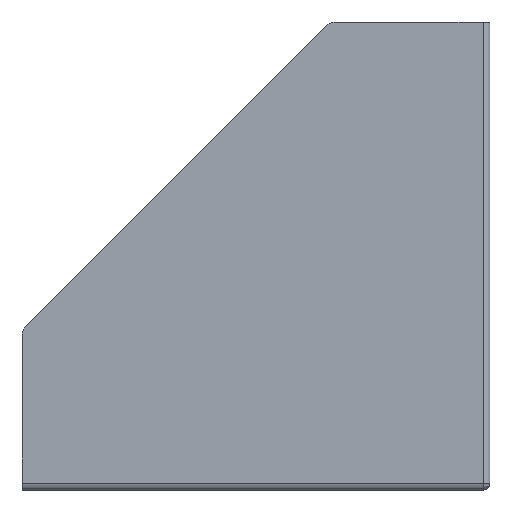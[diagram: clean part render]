
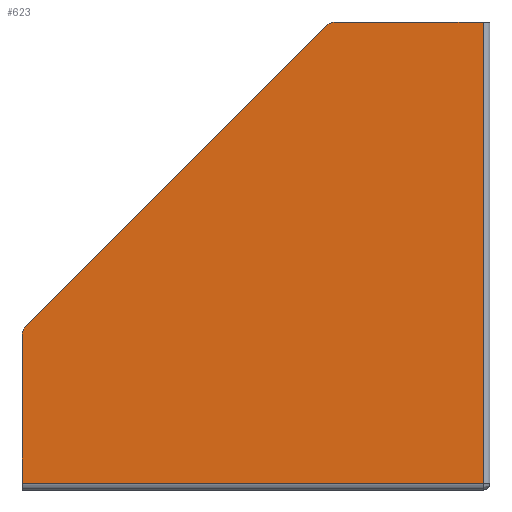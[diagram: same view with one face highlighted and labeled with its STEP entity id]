
A CAD part, left-side view. The second image highlights one B-rep face of the part: STEP entity #623.
In plain terms, the highlighted planar face has unit normal (-1, 0, 0).
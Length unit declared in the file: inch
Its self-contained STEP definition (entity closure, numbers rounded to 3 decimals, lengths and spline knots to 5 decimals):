
#14 = ORIENTED_EDGE ( 'NONE', *, *, #315, .F. ) ;
#28 = ORIENTED_EDGE ( 'NONE', *, *, #69, .F. ) ;
#34 = DIRECTION ( 'NONE',  ( 0., 0., -1. ) ) ;
#65 = VECTOR ( 'NONE', #507, 39.37008 ) ;
#69 = EDGE_CURVE ( 'NONE', #662, #557, #268, .T. ) ;
#77 = ORIENTED_EDGE ( 'NONE', *, *, #862, .F. ) ;
#80 = VERTEX_POINT ( 'NONE', #555 ) ;
#114 = CARTESIAN_POINT ( 'NONE',  ( 0., 6.33839, -4.13589 ) ) ;
#137 = VECTOR ( 'NONE', #190, 39.37008 ) ;
#139 = DIRECTION ( 'NONE',  ( 1., 0., 0. ) ) ;
#162 = VECTOR ( 'NONE', #393, 39.37008 ) ;
#171 = FACE_OUTER_BOUND ( 'NONE', #195, .T. ) ;
#175 = CARTESIAN_POINT ( 'NONE',  ( 0., 6.33839, -4.13589 ) ) ;
#177 = EDGE_CURVE ( 'NONE', #422, #510, #516, .T. ) ;
#190 = DIRECTION ( 'NONE',  ( 0., 1., 0. ) ) ;
#195 = EDGE_LOOP ( 'NONE', ( #77, #681, #14, #809, #367, #28, #640 ) ) ;
#205 = AXIS2_PLACEMENT_3D ( 'NONE', #554, #139, #618 ) ;
#250 = VERTEX_POINT ( 'NONE', #703 ) ;
#267 = VECTOR ( 'NONE', #34, 39.37008 ) ;
#268 = CIRCLE ( 'NONE', #205, 0.125 ) ;
#296 = CARTESIAN_POINT ( 'NONE',  ( 0., 2.11947, -0.09375 ) ) ;
#315 = EDGE_CURVE ( 'NONE', #510, #250, #598, .T. ) ;
#325 = CARTESIAN_POINT ( 'NONE',  ( 0., 6.375, -6.34375 ) ) ;
#329 = VERTEX_POINT ( 'NONE', #694 ) ;
#355 = DIRECTION ( 'NONE',  ( 0., 0., 1. ) ) ;
#365 = CARTESIAN_POINT ( 'NONE',  ( 0., 6.375, -4.22428 ) ) ;
#367 = ORIENTED_EDGE ( 'NONE', *, *, #592, .F. ) ;
#368 = CARTESIAN_POINT ( 'NONE',  ( 0., 2.20786, -0.00536 ) ) ;
#371 = VECTOR ( 'NONE', #731, 39.37008 ) ;
#390 = DIRECTION ( 'NONE',  ( 0., 0., -1. ) ) ;
#393 = DIRECTION ( 'NONE',  ( 0., 0., 1. ) ) ;
#422 = VERTEX_POINT ( 'NONE', #368 ) ;
#478 = LINE ( 'NONE', #807, #162 ) ;
#491 = EDGE_CURVE ( 'NONE', #250, #329, #802, .T. ) ;
#507 = DIRECTION ( 'NONE',  ( 0., -1., 0. ) ) ;
#510 = VERTEX_POINT ( 'NONE', #718 ) ;
#514 = CARTESIAN_POINT ( 'NONE',  ( 0., 0.09375, -6.34375 ) ) ;
#516 = CIRCLE ( 'NONE', #763, 0.125 ) ;
#551 = AXIS2_PLACEMENT_3D ( 'NONE', #325, #804, #390 ) ;
#554 = CARTESIAN_POINT ( 'NONE',  ( 0., 6.25, -4.22428 ) ) ;
#555 = CARTESIAN_POINT ( 'NONE',  ( 0., 6.375, -6.25 ) ) ;
#557 = VERTEX_POINT ( 'NONE', #175 ) ;
#560 = LINE ( 'NONE', #114, #371 ) ;
#592 = EDGE_CURVE ( 'NONE', #557, #422, #560, .T. ) ;
#598 = LINE ( 'NONE', #847, #65 ) ;
#604 = CARTESIAN_POINT ( 'NONE',  ( 0., 6.375, -6.25 ) ) ;
#618 = DIRECTION ( 'NONE',  ( 0., 0., 1. ) ) ;
#623 = ADVANCED_FACE ( 'NONE', ( #171 ), #876, .F. ) ;
#640 = ORIENTED_EDGE ( 'NONE', *, *, #871, .F. ) ;
#662 = VERTEX_POINT ( 'NONE', #365 ) ;
#681 = ORIENTED_EDGE ( 'NONE', *, *, #491, .F. ) ;
#694 = CARTESIAN_POINT ( 'NONE',  ( 0., 0.09375, -6.25 ) ) ;
#703 = CARTESIAN_POINT ( 'NONE',  ( 0., 0.09375, 0.03125 ) ) ;
#718 = CARTESIAN_POINT ( 'NONE',  ( 0., 2.11947, 0.03125 ) ) ;
#731 = DIRECTION ( 'NONE',  ( 0., -0.707, 0.707 ) ) ;
#763 = AXIS2_PLACEMENT_3D ( 'NONE', #296, #767, #355 ) ;
#767 = DIRECTION ( 'NONE',  ( 1., 0., 0. ) ) ;
#802 = LINE ( 'NONE', #514, #267 ) ;
#804 = DIRECTION ( 'NONE',  ( 1., 0., 0. ) ) ;
#807 = CARTESIAN_POINT ( 'NONE',  ( 0., 6.375, -6.34375 ) ) ;
#809 = ORIENTED_EDGE ( 'NONE', *, *, #177, .F. ) ;
#847 = CARTESIAN_POINT ( 'NONE',  ( 0., 6.375, 0.03125 ) ) ;
#862 = EDGE_CURVE ( 'NONE', #329, #80, #874, .T. ) ;
#871 = EDGE_CURVE ( 'NONE', #80, #662, #478, .T. ) ;
#874 = LINE ( 'NONE', #604, #137 ) ;
#876 = PLANE ( 'NONE',  #551 ) ;
